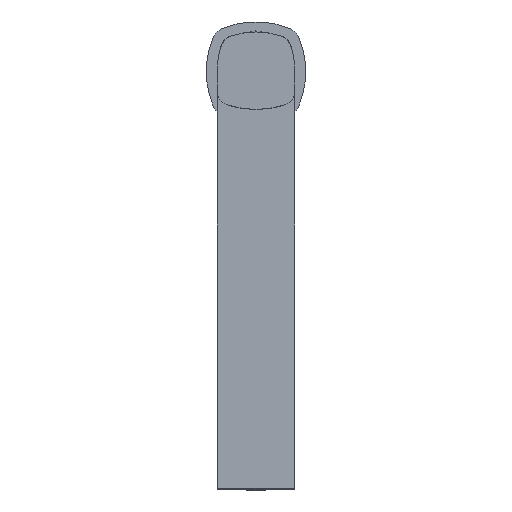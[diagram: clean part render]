
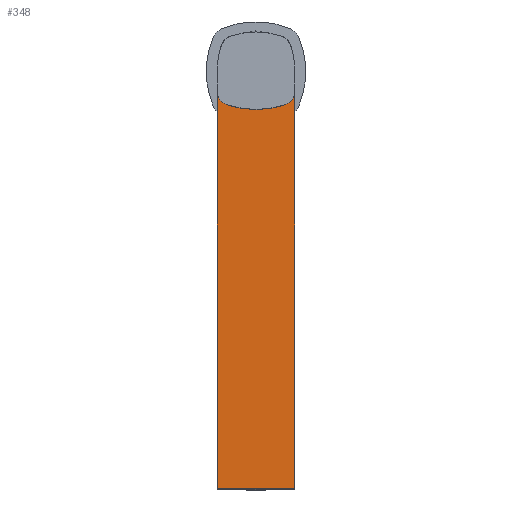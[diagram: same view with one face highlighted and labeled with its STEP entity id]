
A CAD part, top view. The second image highlights one B-rep face of the part: STEP entity #348.
In plain terms, the highlighted planar face has unit normal (0, 0, 1).
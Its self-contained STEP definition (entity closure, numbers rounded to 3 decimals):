
#272 = EDGE_CURVE('',#273,#275,#277,.T.);
#273 = VERTEX_POINT('',#274);
#274 = CARTESIAN_POINT('',(-19.5,-209.2,241.188));
#275 = VERTEX_POINT('',#276);
#276 = CARTESIAN_POINT('',(-19.5,0.,
    241.188));
#277 = LINE('',#278,#279);
#278 = CARTESIAN_POINT('',(-19.5,-209.2,241.188));
#279 = VECTOR('',#280,1.);
#280 = DIRECTION('',(0.,1.,0.));
#323 = VERTEX_POINT('',#324);
#324 = CARTESIAN_POINT('',(19.5,0.,
    241.188));
#330 = EDGE_CURVE('',#323,#331,#333,.T.);
#331 = VERTEX_POINT('',#332);
#332 = CARTESIAN_POINT('',(19.5,-209.2,241.188));
#333 = LINE('',#334,#335);
#334 = CARTESIAN_POINT('',(19.5,-209.2,241.188));
#335 = VECTOR('',#336,1.);
#336 = DIRECTION('',(0.,-1.,0.));
#348 = ADVANCED_FACE('',(#349,#402),#422,.T.);
#349 = FACE_BOUND('',#350,.T.);
#350 = EDGE_LOOP('',(#351,#352,#358,#359,#368,#377,#386,#395));
#351 = ORIENTED_EDGE('',*,*,#272,.F.);
#352 = ORIENTED_EDGE('',*,*,#353,.T.);
#353 = EDGE_CURVE('',#273,#331,#354,.T.);
#354 = LINE('',#355,#356);
#355 = CARTESIAN_POINT('',(-19.5,-209.2,241.188));
#356 = VECTOR('',#357,1.);
#357 = DIRECTION('',(1.,0.,0.));
#358 = ORIENTED_EDGE('',*,*,#330,.F.);
#359 = ORIENTED_EDGE('',*,*,#360,.T.);
#360 = EDGE_CURVE('',#323,#361,#363,.T.);
#361 = VERTEX_POINT('',#362);
#362 = CARTESIAN_POINT('',(17.465,12.433,
    241.188));
#363 = CIRCLE('',#364,39.);
#364 = AXIS2_PLACEMENT_3D('',#365,#366,#367);
#365 = CARTESIAN_POINT('',(-19.5,0.,241.188));
#366 = DIRECTION('',(0.,0.,1.));
#367 = DIRECTION('',(0.928,-0.373,0.));
#368 = ORIENTED_EDGE('',*,*,#369,.T.);
#369 = EDGE_CURVE('',#361,#370,#372,.T.);
#370 = VERTEX_POINT('',#371);
#371 = CARTESIAN_POINT('',(12.433,17.465,
    241.188));
#372 = CIRCLE('',#373,8.);
#373 = AXIS2_PLACEMENT_3D('',#374,#375,#376);
#374 = CARTESIAN_POINT('',(9.883,9.883,241.188
    ));
#375 = DIRECTION('',(0.,0.,1.));
#376 = DIRECTION('',(1.,0.,-0.));
#377 = ORIENTED_EDGE('',*,*,#378,.T.);
#378 = EDGE_CURVE('',#370,#379,#381,.T.);
#379 = VERTEX_POINT('',#380);
#380 = CARTESIAN_POINT('',(-12.433,17.465,
    241.188));
#381 = CIRCLE('',#382,39.);
#382 = AXIS2_PLACEMENT_3D('',#383,#384,#385);
#383 = CARTESIAN_POINT('',(0.,-19.5,
    241.188));
#384 = DIRECTION('',(0.,0.,1.));
#385 = DIRECTION('',(-0.373,0.928,0.));
#386 = ORIENTED_EDGE('',*,*,#387,.T.);
#387 = EDGE_CURVE('',#379,#388,#390,.T.);
#388 = VERTEX_POINT('',#389);
#389 = CARTESIAN_POINT('',(-17.465,12.433,
    241.188));
#390 = CIRCLE('',#391,8.);
#391 = AXIS2_PLACEMENT_3D('',#392,#393,#394);
#392 = CARTESIAN_POINT('',(-9.883,9.883,241.188
    ));
#393 = DIRECTION('',(0.,0.,1.));
#394 = DIRECTION('',(1.,0.,-0.));
#395 = ORIENTED_EDGE('',*,*,#396,.T.);
#396 = EDGE_CURVE('',#388,#275,#397,.T.);
#397 = CIRCLE('',#398,39.);
#398 = AXIS2_PLACEMENT_3D('',#399,#400,#401);
#399 = CARTESIAN_POINT('',(19.5,0.,
    241.188));
#400 = DIRECTION('',(0.,0.,1.));
#401 = DIRECTION('',(-0.928,-0.373,0.));
#402 = FACE_BOUND('',#403,.T.);
#403 = EDGE_LOOP('',(#404,#415));
#404 = ORIENTED_EDGE('',*,*,#405,.T.);
#405 = EDGE_CURVE('',#406,#408,#410,.T.);
#406 = VERTEX_POINT('',#407);
#407 = CARTESIAN_POINT('',(0.,-17.496,
    241.188));
#408 = VERTEX_POINT('',#409);
#409 = CARTESIAN_POINT('',(0.,17.496,
    241.188));
#410 = CIRCLE('',#411,17.496);
#411 = AXIS2_PLACEMENT_3D('',#412,#413,#414);
#412 = CARTESIAN_POINT('',(0.,0.,
    241.188));
#413 = DIRECTION('',(0.,0.,-1.));
#414 = DIRECTION('',(0.,1.,0.));
#415 = ORIENTED_EDGE('',*,*,#416,.T.);
#416 = EDGE_CURVE('',#408,#406,#417,.T.);
#417 = CIRCLE('',#418,17.496);
#418 = AXIS2_PLACEMENT_3D('',#419,#420,#421);
#419 = CARTESIAN_POINT('',(0.,0.,
    241.188));
#420 = DIRECTION('',(0.,0.,-1.));
#421 = DIRECTION('',(0.,1.,0.));
#422 = PLANE('',#423);
#423 = AXIS2_PLACEMENT_3D('',#424,#425,#426);
#424 = CARTESIAN_POINT('',(19.5,-210.,241.188));
#425 = DIRECTION('',(0.,0.,1.));
#426 = DIRECTION('',(0.,1.,0.));
